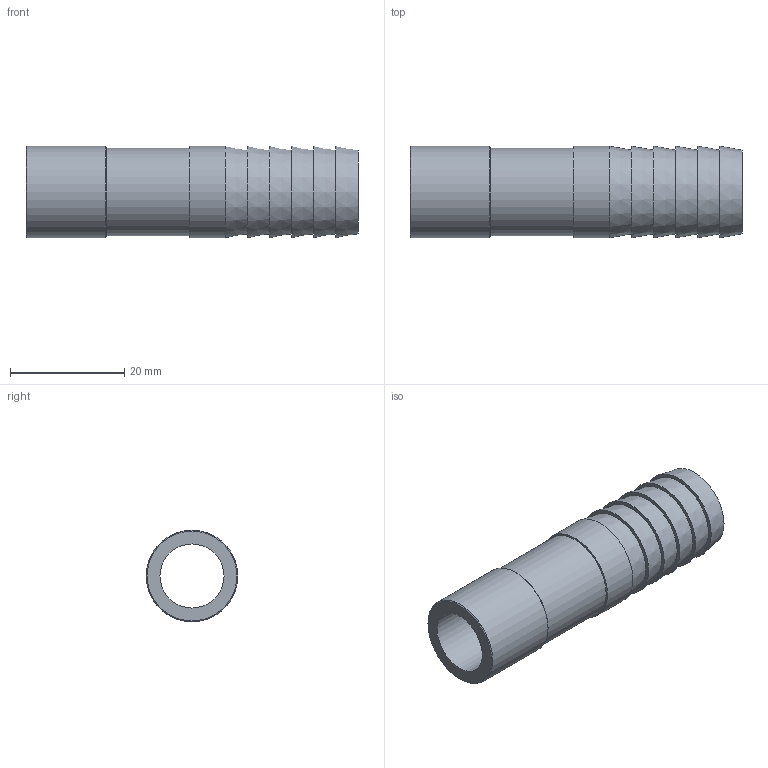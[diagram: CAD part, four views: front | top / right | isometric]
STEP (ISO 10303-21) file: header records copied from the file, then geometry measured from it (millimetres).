
FILE_DESCRIPTION(/* description */ ('PLASSON HOSE NOZZLE-CEM. PVC 16'),/* implementation_level */ '2;1');
FILE_NAME(/* name */ 'C:\Dropbox\KIMPROJECTS-Inventor\99-16-3568-Processing\PVC Catalog 2017\053600\053600016.ipt.stp',/* time_stamp */ '2017-12-07T16:02:51+02:00',/* author */ ('KIM'),/* organization */ (''),/* preprocessor_version */ 'ST-DEVELOPER v15.6',/* originating_system */ 'Autodesk Inventor 2015',/* authorisation */ '');
FILE_SCHEMA (('AUTOMOTIVE_DESIGN { 1 0 10303 214 3 1 1 }'));
Length unit declared in the file: millimetre
Products named in the file (1): 053600016
Bounding box: 58 x 16 x 16 mm (x, y, z)
Volume: 5331.3 mm3; surface area: 5252.9 mm2
Topology: 1 solids, 1 shells, 21 faces, 33 edges, 21 vertices
Faces by surface type: plane 9, cone 8, cylinder 4
Full cylindrical faces by diameter (mm): 11.2 x1, 15.36 x1, 16 x2
Entity records: 452 total; most frequent: DIRECTION 86, CARTESIAN_POINT 64, AXIS2_PLACEMENT_3D 43, EDGE_LOOP 42, ORIENTED_EDGE 42, FACE_BOUND 21, FACE_OUTER_BOUND 21, CIRCLE 21
